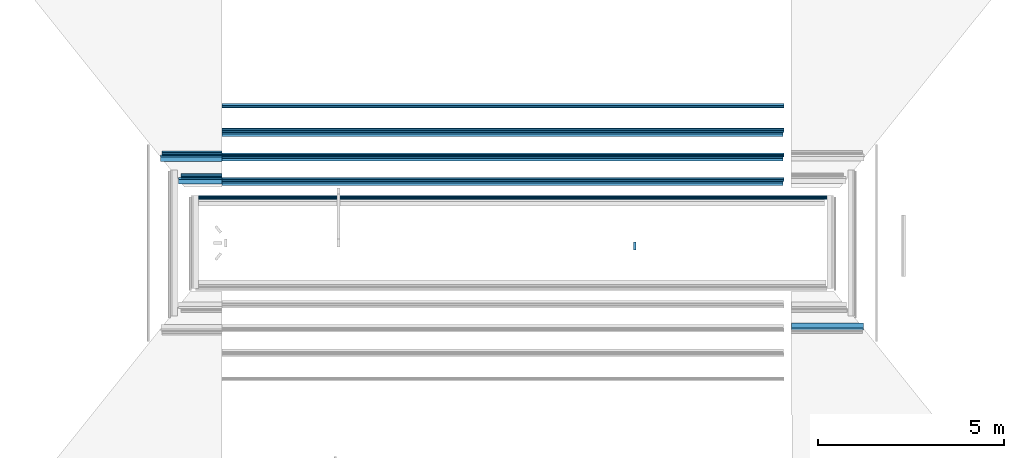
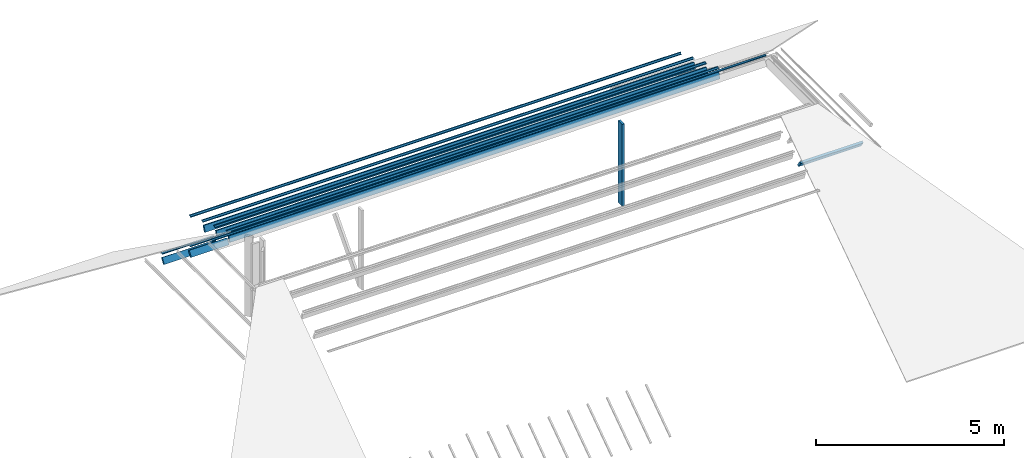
# One storey, part 3 of 6: 14 beams.
"""IFC2X3 building model written with IfcOpenShell, lengths in centimetres."""

from ifc_helpers import new_model, entity, si_unit, converted_unit, direction, frame, frame_2d, origin, place, context, subcontext, project, spatial, polyline, circle_curve, parameter, trimmed, segment, composite_curve, rectangle, outline, extrude, material, type_object, element, save


model = new_model("IFC2X3")

# Units and contexts
model_context = context("Model", 3, precision=0.001, world=frame((0.0, 0.0, 13090.0)), true_north=direction((6.123233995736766e-17, 1.0)))
body_context = subcontext(model_context, "Body", "Model", "MODEL_VIEW")
ifc_project = project(units=[si_unit("LENGTHUNIT", "METRE", prefix="CENTI"), si_unit("AREAUNIT", "SQUARE_METRE"), si_unit("VOLUMEUNIT", "CUBIC_METRE"), converted_unit("PLANEANGLEUNIT", "DEGREE", entity("IfcPlaneAngleMeasure", 0.017453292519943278), si_unit("PLANEANGLEUNIT", "RADIAN"), dimensions=[0, 0, 0, 0, 0, 0, 0])], contexts=[model_context])

# Site, building, storey
site_placement = place(None, origin())
site = spatial("IfcSite", under=ifc_project, at=site_placement, Name="Default", CompositionType="ELEMENT")
building_placement = place(site_placement, origin())
building = spatial("IfcBuilding", under=site, at=building_placement, Name="e 39 logements et 22 maisons relais", CompositionType="ELEMENT")
storey_placement = place(building_placement, frame((0.0, 0.0, 810.0)))
storey = spatial("IfcBuildingStorey", under=building, at=storey_placement, Name="R+3", CompositionType="ELEMENT", Elevation=810.0000000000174)

# Beams
ifc_material_1 = material(Name="Bois - Bois de construction de dimensions courantes")
beam_type_1 = type_object("IfcBeamType", Name="Poutre - Bois de construction de dimensions courantes:70 220", PredefinedType="BEAM")
beam_1_placement = place(storey_placement, frame((286.63480771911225, -253.80300246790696, -102.07791884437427)))
element("IfcBeam", 1, at=beam_1_placement, inside=storey, type_object=beam_type_1, material=ifc_material_1, Name="Poutre - Bois de construction de dimensions courantes:70 220", ObjectType="Poutre - Bois de construction de dimensions courantes:70 220", context=body_context, shape_type="SweptSolid", body=[
    extrude(rectangle(XDim=22.00000000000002, YDim=7.000000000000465, at=frame_2d((4.440892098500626e-14, -3.086420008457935e-14), x_axis=(1.0, 0.0))), frame((322.5262084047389, 6.309340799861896, -9.010672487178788), z_axis=(1.0, 0.0, 0.0), x_axis=(0.0, -0.5735764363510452, 0.8191520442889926)), (0.0, 0.0, 1.0), 192.94788291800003),
])
beam_2_placement = place(storey_placement, frame((186.86823692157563, -20.391086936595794, 193.24651256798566), z_axis=(1.0, 0.0, 0.0), x_axis=(0.0, 0.0, -1.0)))
element("IfcBeam", 2, at=beam_2_placement, inside=storey, type_object=beam_type_1, material=ifc_material_1, Name="Poutre - Bois de construction de dimensions courantes:70 220", ObjectType="Poutre - Bois de construction de dimensions courantes:70 220", context=body_context, shape_type="SweptSolid", body=[
    extrude(rectangle(XDim=7.000000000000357, YDim=21.999999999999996, at=frame_2d((0.0, -7.105427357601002e-15), x_axis=(1.0, 0.0))), frame((150.63012889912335, -11.0, 0.0), z_axis=(1.0, 0.0, 0.0), x_axis=(0.0, 0.0, -1.0)), (0.0, 0.0, 1.0), 266.29065862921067),
])
beam_type_2 = type_object("IfcBeamType", Name="Poutre - Bois de construction de dimensions courantes:70 200", PredefinedType="BEAM")
beam_3_placement = place(storey_placement, frame((-570.9302602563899, 210.5672279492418, -98.59157887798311), z_axis=(0.0, 0.0, 1.0), x_axis=(-1.0, 0.0, 0.0)))
element("IfcBeam", 3, at=beam_3_placement, inside=storey, type_object=beam_type_2, material=ifc_material_1, Name="Poutre - Bois de construction de dimensions courantes:70 200", ObjectType="Poutre - Bois de construction de dimensions courantes:70 200", context=body_context, shape_type="SweptSolid", body=[
    extrude(rectangle(XDim=19.999999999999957, YDim=7.000000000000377, at=frame_2d((-5.240252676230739e-14, 1.9984014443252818e-14), x_axis=(1.0, 0.0))), frame((352.0992144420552, 5.735764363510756, -8.191520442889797), z_axis=(1.0, 0.0, 0.0), x_axis=(0.0, -0.5735764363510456, 0.8191520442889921)), (0.0, 0.0, 1.0), 164.77416272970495),
])
beam_4_placement = place(storey_placement, frame((-570.9302602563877, 150.13550224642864, -55.51334522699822), z_axis=(0.0, 0.0, 1.0), x_axis=(-1.0, 0.0, 0.0)))
element("IfcBeam", 4, at=beam_4_placement, inside=storey, type_object=beam_type_2, material=ifc_material_1, Name="Poutre - Bois de construction de dimensions courantes:70 200", ObjectType="Poutre - Bois de construction de dimensions courantes:70 200", context=body_context, shape_type="SweptSolid", body=[
    extrude(rectangle(XDim=19.999999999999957, YDim=7.0000000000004, at=frame_2d((4.440892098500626e-14, -3.108624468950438e-14), x_axis=(1.0, 0.0))), frame((352.0992144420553, 5.735764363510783, -8.191520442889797), z_axis=(1.0, 0.0, 0.0), x_axis=(0.0, -0.5735764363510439, 0.8191520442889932)), (0.0, 0.0, 1.0), 116.52932828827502),
])
beam_5_placement = place(storey_placement, frame((-570.9302602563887, 144.79877924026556, -34.100000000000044), z_axis=(-0.0030304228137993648, 0.0, 0.9999954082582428), x_axis=(-0.9999954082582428, 0.0, -0.0030304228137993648)))
element("IfcBeam", 5, at=beam_5_placement, inside=storey, type_object=beam_type_2, material=ifc_material_1, Name="Poutre - Bois de construction de dimensions courantes:70 200", ObjectType="Poutre - Bois de construction de dimensions courantes:70 200", context=body_context, shape_type="SweptSolid", body=[
    extrude(rectangle(XDim=20.00000000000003, YDim=7.000000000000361, at=frame_2d((0.0, 0.0), x_axis=(0.0, 1.0))), frame((-1156.6198523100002, 6.1563625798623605, -16.914467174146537), z_axis=(1.0, 0.0, 0.0), x_axis=(0.0, -0.9396926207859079, -0.34202014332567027)), (0.0, 0.0, 1.0), 1508.7195752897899),
])
beam_6_placement = place(storey_placement, frame((-570.9302602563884, 210.729631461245, -57.960000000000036), z_axis=(-0.0026166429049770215, 0.0, 0.999996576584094), x_axis=(-0.999996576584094, 0.0, -0.0026166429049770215)))
element("IfcBeam", 6, at=beam_6_placement, inside=storey, type_object=beam_type_2, material=ifc_material_1, Name="Poutre - Bois de construction de dimensions courantes:70 200", ObjectType="Poutre - Bois de construction de dimensions courantes:70 200", context=body_context, shape_type="SweptSolid", body=[
    extrude(rectangle(XDim=19.999999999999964, YDim=7.000000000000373, at=frame_2d((1.9761969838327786e-14, -6.483702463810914e-14), x_axis=(0.0, 1.0))), frame((-1156.6199817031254, 6.190564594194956, -17.00843643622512), z_axis=(1.0, 0.0, 0.0), x_axis=(0.0, -0.9396926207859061, -0.34202014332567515)), (0.0, 0.0, 1.0), 1508.7195752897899),
])
beam_7_placement = place(storey_placement, frame((-570.9302602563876, 276.58031752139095, -81.84000000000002), z_axis=(-0.0019820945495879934, 0.0, 0.999998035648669), x_axis=(-0.999998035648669, 0.0, -0.0019820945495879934)))
element("IfcBeam", 7, at=beam_7_placement, inside=storey, type_object=beam_type_2, material=ifc_material_1, Name="Poutre - Bois de construction de dimensions courantes:70 200", ObjectType="Poutre - Bois de construction de dimensions courantes:70 200", context=body_context, shape_type="SweptSolid", body=[
    extrude(rectangle(XDim=19.999999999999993, YDim=7.00000000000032, at=frame_2d((2.531308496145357e-14, -9.769962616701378e-15), x_axis=(0.0, 1.0))), frame((-1156.6201432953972, 6.019554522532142, -16.538590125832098), z_axis=(1.0, 0.0, 0.0), x_axis=(0.0, -0.9396926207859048, -0.3420201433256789)), (0.0, 0.0, 1.0), 1508.7195752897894),
])
ifc_material_2 = material(Name="neuf")
beam_type_3 = type_object("IfcBeamType", Name="panne z:panne z", PredefinedType="BEAM")
beam_8_placement = place(storey_placement, frame((-570.9302602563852, 348.4252606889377, -96.79999999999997), z_axis=(-0.0010683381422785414, 0.0, 0.9999994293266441), x_axis=(-0.9999994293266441, 0.0, -0.0010683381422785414)))
element("IfcBeam", 8, at=beam_8_placement, inside=storey, type_object=beam_type_3, material=ifc_material_2, Name="panne z:panne z", ObjectType="panne z:panne z", context=body_context, shape_type="SweptSolid", body=[
    extrude(outline(composite_curve([segment(polyline([(0.29999999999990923, -3.0), (4.599999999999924, -3.0)]), True, "CONTINUOUS"), segment(trimmed(circle_curve(frame_2d((4.599999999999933, -2.5999999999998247), x_axis=(0.0, -1.0)), 0.40000000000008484), [parameter(0.0)], [parameter(89.99999999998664)], True, "PARAMETER"), True, "CONTINUOUS"), segment(polyline([(5.0, -2.5999999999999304), (5.0, -1.0)]), True, "CONTINUOUS"), segment(polyline([(5.0, -1.0), (4.799999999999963, -1.0)]), True, "CONTINUOUS"), segment(polyline([(4.799999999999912, -1.0), (4.799999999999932, -2.5999999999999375)]), True, "CONTINUOUS"), segment(trimmed(circle_curve(frame_2d((4.59999999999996, -2.6000000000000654), x_axis=(1.0, 0.0)), 0.19999999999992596), [parameter(269.99999999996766)], [parameter(0.0)], True, "PARAMETER"), False, "CONTINUOUS"), segment(polyline([(4.599999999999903, -2.799999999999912), (0.29999999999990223, -2.7999999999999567)]), True, "CONTINUOUS"), segment(trimmed(circle_curve(frame_2d((0.2999999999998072, -2.6000000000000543), x_axis=(0.0, -1.0)), 0.19999999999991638), [parameter(269.99999999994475)], [parameter(0.0)], True, "PARAMETER"), False, "CONTINUOUS"), segment(polyline([(0.09999999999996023, -2.599999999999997), (0.09999999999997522, 2.6000000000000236)]), True, "CONTINUOUS"), segment(trimmed(circle_curve(frame_2d((-0.3000000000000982, 2.6000000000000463), x_axis=(1.0, 0.0)), 0.4000000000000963), [parameter(0.0)], [parameter(89.99999999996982)], True, "PARAMETER"), True, "CONTINUOUS"), segment(polyline([(-0.30000000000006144, 3.0), (-4.600000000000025, 3.0)]), True, "CONTINUOUS"), segment(trimmed(circle_curve(frame_2d((-4.600000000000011, 2.6000000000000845), x_axis=(0.0, 1.0)), 0.4000000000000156), [parameter(0.0)], [parameter(89.99999999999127)], True, "PARAMETER"), True, "CONTINUOUS"), segment(polyline([(-5.0, 2.6000000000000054), (-5.0, 1.0)]), True, "CONTINUOUS"), segment(polyline([(-5.0, 1.0), (-4.79999999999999, 1.0)]), True, "CONTINUOUS"), segment(polyline([(-4.79999999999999, 1.0), (-4.799999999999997, 2.600000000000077)]), True, "CONTINUOUS"), segment(trimmed(circle_curve(frame_2d((-4.6000000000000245, 2.600000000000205), x_axis=(-1.0, 0.0)), 0.19999999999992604), [parameter(269.99999999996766)], [parameter(0.0)], True, "PARAMETER"), False, "CONTINUOUS"), segment(polyline([(-4.600000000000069, 2.8000000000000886), (-0.3000000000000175, 2.8000000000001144)]), True, "CONTINUOUS"), segment(trimmed(circle_curve(frame_2d((-0.2999999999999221, 2.6000000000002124), x_axis=(0.0, 1.0)), 0.19999999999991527), [parameter(269.9999999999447)], [parameter(0.0)], True, "PARAMETER"), False, "CONTINUOUS"), segment(polyline([(-0.10000000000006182, 2.600000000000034), (-0.10000000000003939, -2.599999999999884)]), True, "CONTINUOUS"), segment(trimmed(circle_curve(frame_2d((0.299999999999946, -2.59999999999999), x_axis=(-1.0, 0.0)), 0.40000000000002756), [parameter(0.0)], [parameter(90.00000000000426)], True, "PARAMETER"), True, "CONTINUOUS")], self_intersect=False)), frame((-1159.7812856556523, 2.4907390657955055, -6.843249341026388), z_axis=(1.0, 0.0, 0.0), x_axis=(0.0, -0.9396926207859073, -0.34202014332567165)), (0.0, 0.0, 1.0), 1511.8806265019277),
])
beam_9_placement = place(storey_placement, frame((-570.9302602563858, 282.5292842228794, -72.70000000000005), z_axis=(-0.0013544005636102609, 0.0, 0.9999990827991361), x_axis=(-0.9999990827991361, 0.0, -0.0013544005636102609)))
element("IfcBeam", 9, at=beam_9_placement, inside=storey, type_object=beam_type_3, material=ifc_material_2, Name="panne z:panne z", ObjectType="panne z:panne z", context=body_context, shape_type="SweptSolid", body=[
    extrude(outline(composite_curve([segment(polyline([(0.29999999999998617, -3.0), (4.600000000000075, -3.0)]), True, "CONTINUOUS"), segment(trimmed(circle_curve(frame_2d((4.599999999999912, -2.5999999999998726), x_axis=(0.0, -1.0)), 0.4000000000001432), [parameter(0.0)], [parameter(89.99999999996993)], True, "PARAMETER"), True, "CONTINUOUS"), segment(polyline([(5.0, -2.60000000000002), (5.0, -1.0)]), True, "CONTINUOUS"), segment(polyline([(5.0, -1.0), (4.8000000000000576, -1.0)]), True, "CONTINUOUS"), segment(polyline([(4.800000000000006, -1.0), (4.80000000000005, -2.599999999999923)]), True, "CONTINUOUS"), segment(trimmed(circle_curve(frame_2d((4.600000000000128, -2.600000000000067), x_axis=(1.0, 0.0)), 0.19999999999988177), [parameter(269.9999999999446)], [parameter(0.0)], True, "PARAMETER"), False, "CONTINUOUS"), segment(polyline([(4.599999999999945, -2.8000000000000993), (0.29999999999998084, -2.7999999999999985)]), True, "CONTINUOUS"), segment(trimmed(circle_curve(frame_2d((0.29999999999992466, -2.599999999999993), x_axis=(0.0, -1.0)), 0.19999999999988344), [parameter(269.9999999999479)], [parameter(0.0)], True, "PARAMETER"), False, "CONTINUOUS"), segment(polyline([(0.1000000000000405, -2.600000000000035), (0.10000000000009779, 2.5999999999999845)]), True, "CONTINUOUS"), segment(trimmed(circle_curve(frame_2d((-0.3000000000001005, 2.5999999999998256), x_axis=(1.0, 0.0)), 0.4000000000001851), [parameter(0.0)], [parameter(89.9999999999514)], True, "PARAMETER"), True, "CONTINUOUS"), segment(polyline([(-0.29999999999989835, 3.0), (-4.599999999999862, 3.0)]), True, "CONTINUOUS"), segment(trimmed(circle_curve(frame_2d((-4.5999999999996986, 2.60000000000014), x_axis=(0.0, 1.0)), 0.40000000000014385), [parameter(0.0)], [parameter(89.99999999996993)], True, "PARAMETER"), True, "CONTINUOUS"), segment(polyline([(-5.0, 2.6000000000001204), (-5.0, 1.0)]), True, "CONTINUOUS"), segment(polyline([(-5.0, 1.0), (-4.799999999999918, 1.0)]), True, "CONTINUOUS"), segment(polyline([(-4.799999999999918, 1.0), (-4.799999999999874, 2.6000000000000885)]), True, "CONTINUOUS"), segment(trimmed(circle_curve(frame_2d((-4.599999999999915, 2.6000000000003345), x_axis=(-1.0, 0.0)), 0.19999999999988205), [parameter(269.9999999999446)], [parameter(0.0)], True, "PARAMETER"), False, "CONTINUOUS"), segment(polyline([(-4.599999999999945, 2.8000000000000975), (-0.2999999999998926, 2.8000000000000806)]), True, "CONTINUOUS"), segment(trimmed(circle_curve(frame_2d((-0.2999999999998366, 2.6000000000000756), x_axis=(0.0, 1.0)), 0.1999999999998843), [parameter(269.9999999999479)], [parameter(0.0)], True, "PARAMETER"), False, "CONTINUOUS"), segment(polyline([(-0.0999999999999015, 2.6000000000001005), (-0.09999999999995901, -2.5999999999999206)]), True, "CONTINUOUS"), segment(trimmed(circle_curve(frame_2d((0.3000000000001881, -2.599999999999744), x_axis=(-1.0, 0.0)), 0.4000000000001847), [parameter(0.0)], [parameter(89.99999999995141)], True, "PARAMETER"), True, "CONTINUOUS")], self_intersect=False)), frame((-1159.7812856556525, 2.55914309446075, -7.031187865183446), z_axis=(1.0, 0.0, 0.0), x_axis=(0.0, -0.9396926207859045, -0.3420201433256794)), (0.0, 0.0, 1.0), 1511.8807032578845),
])
beam_10_placement = place(storey_placement, frame((-570.9302602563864, 216.72946991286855, -49.0), z_axis=(-0.0025271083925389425, 0.0, 0.9999968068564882), x_axis=(-0.9999968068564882, 0.0, -0.0025271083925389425)))
element("IfcBeam", 10, at=beam_10_placement, inside=storey, type_object=beam_type_3, material=ifc_material_2, Name="panne z:panne z", ObjectType="panne z:panne z", context=body_context, shape_type="SweptSolid", body=[
    extrude(outline(composite_curve([segment(polyline([(0.29999999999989, -3.0), (4.599999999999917, -3.0)]), True, "CONTINUOUS"), segment(trimmed(circle_curve(frame_2d((4.599999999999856, -2.6000000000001), x_axis=(0.0, -1.0)), 0.4000000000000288), [parameter(0.0)], [parameter(89.99999999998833)], True, "PARAMETER"), True, "CONTINUOUS"), segment(polyline([(5.0, -2.600000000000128), (5.0, -1.0)]), True, "CONTINUOUS"), segment(polyline([(5.0, -1.0), (4.7999999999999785, -1.0)]), True, "CONTINUOUS"), segment(polyline([(4.799999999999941, -1.0), (4.7999999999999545, -2.6000000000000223)]), True, "CONTINUOUS"), segment(trimmed(circle_curve(frame_2d((4.599999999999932, -2.600000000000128), x_axis=(1.0, 0.0)), 0.19999999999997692), [parameter(270.0000000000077)], [parameter(0.0)], True, "PARAMETER"), False, "CONTINUOUS"), segment(polyline([(4.599999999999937, -2.8000000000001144), (0.29999999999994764, -2.7999999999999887)]), True, "CONTINUOUS"), segment(trimmed(circle_curve(frame_2d((0.2999999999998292, -2.600000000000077), x_axis=(0.0, -1.0)), 0.1999999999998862), [parameter(269.99999999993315)], [parameter(0.0)], True, "PARAMETER"), False, "CONTINUOUS"), segment(polyline([(0.0999999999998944, -2.6000000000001), (0.09999999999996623, 2.5999999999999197)]), True, "CONTINUOUS"), segment(trimmed(circle_curve(frame_2d((-0.2999999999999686, 2.600000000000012), x_axis=(1.0, 0.0)), 0.3999999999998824), [parameter(0.0)], [parameter(90.00000000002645)], True, "PARAMETER"), True, "CONTINUOUS"), segment(polyline([(-0.3000000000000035, 3.0), (-4.600000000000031, 3.0)]), True, "CONTINUOUS"), segment(trimmed(circle_curve(frame_2d((-4.600000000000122, 2.6000000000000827), x_axis=(0.0, 1.0)), 0.3999999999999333), [parameter(0.0)], [parameter(90.00000000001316)], True, "PARAMETER"), True, "CONTINUOUS"), segment(polyline([(-5.0, 2.5999999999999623), (-5.0, 1.0)]), True, "CONTINUOUS"), segment(polyline([(-5.0, 1.0), (-4.800000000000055, 1.0)]), True, "CONTINUOUS"), segment(polyline([(-4.800000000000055, 1.0), (-4.800000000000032, 2.60000000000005)]), True, "CONTINUOUS"), segment(trimmed(circle_curve(frame_2d((-4.600000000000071, 2.6000000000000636), x_axis=(-1.0, 0.0)), 0.19999999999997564), [parameter(270.0000000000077)], [parameter(0.0)], True, "PARAMETER"), False, "CONTINUOUS"), segment(polyline([(-4.6000000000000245, 2.80000000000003), (-0.2999999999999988, 2.800000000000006)]), True, "CONTINUOUS"), segment(trimmed(circle_curve(frame_2d((-0.2999999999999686, 2.600000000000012), x_axis=(0.0, 1.0)), 0.19999999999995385), [parameter(269.9999999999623)], [parameter(0.0)], True, "PARAMETER"), False, "CONTINUOUS"), segment(polyline([(-0.1000000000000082, 2.600000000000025), (-0.10000000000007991, -2.5999999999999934)]), True, "CONTINUOUS"), segment(trimmed(circle_curve(frame_2d((0.2999999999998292, -2.600000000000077), x_axis=(-1.0, 0.0)), 0.3999999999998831), [parameter(0.0)], [parameter(90.00000000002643)], True, "PARAMETER"), True, "CONTINUOUS")], self_intersect=False)), frame((-1159.781285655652, 2.764355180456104, -7.595003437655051), z_axis=(1.0, 0.0, 0.0), x_axis=(0.0, -0.9396926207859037, -0.342020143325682)), (0.0, 0.0, 1.0), 1511.881207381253),
])
beam_11_placement = place(storey_placement, frame((-570.9302602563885, 150.4561422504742, -24.700000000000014), z_axis=(-0.0027087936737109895, 0.0, 0.9999963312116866), x_axis=(-0.9999963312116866, 0.0, -0.0027087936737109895)))
element("IfcBeam", 11, at=beam_11_placement, inside=storey, type_object=beam_type_3, material=ifc_material_2, Name="panne z:panne z", ObjectType="panne z:panne z", context=body_context, shape_type="SweptSolid", body=[
    extrude(outline(composite_curve([segment(polyline([(0.2999999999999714, -3.0), (4.599999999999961, -3.0)]), True, "CONTINUOUS"), segment(trimmed(circle_curve(frame_2d((4.600000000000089, -2.5999999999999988), x_axis=(0.0, -1.0)), 0.3999999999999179), [parameter(0.0)], [parameter(90.00000000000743)], True, "PARAMETER"), True, "CONTINUOUS"), segment(polyline([(5.0, -2.600000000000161), (5.0, -1.0)]), True, "CONTINUOUS"), segment(polyline([(5.0, -1.0), (4.79999999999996, -1.0)]), True, "CONTINUOUS"), segment(polyline([(4.799999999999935, -1.0), (4.799999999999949, -2.6000000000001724)]), True, "CONTINUOUS"), segment(trimmed(circle_curve(frame_2d((4.600000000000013, -2.599999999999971), x_axis=(1.0, 0.0)), 0.20000000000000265), [parameter(269.99999999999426)], [parameter(0.0)], True, "PARAMETER"), False, "CONTINUOUS"), segment(polyline([(4.600000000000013, -2.8000000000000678), (0.29999999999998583, -2.8000000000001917)]), True, "CONTINUOUS"), segment(trimmed(circle_curve(frame_2d((0.3000000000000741, -2.600000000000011), x_axis=(0.0, -1.0)), 0.20000000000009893), [parameter(270.00000000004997)], [parameter(0.0)], True, "PARAMETER"), False, "CONTINUOUS"), segment(polyline([(0.09999999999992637, -2.60000000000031), (0.099999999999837, 2.5999999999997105)]), True, "CONTINUOUS"), segment(trimmed(circle_curve(frame_2d((-0.29999999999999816, 2.5999999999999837), x_axis=(1.0, 0.0)), 0.39999999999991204), [parameter(0.0)], [parameter(90.00000000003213)], True, "PARAMETER"), True, "CONTINUOUS"), segment(polyline([(-0.3000000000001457, 3.0), (-4.600000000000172, 3.0)]), True, "CONTINUOUS"), segment(trimmed(circle_curve(frame_2d((-4.600000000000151, 2.599999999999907), x_axis=(0.0, 1.0)), 0.39999999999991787), [parameter(0.0)], [parameter(90.00000000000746)], True, "PARAMETER"), True, "CONTINUOUS"), segment(polyline([(-5.0, 2.599999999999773), (-5.0, 1.0)]), True, "CONTINUOUS"), segment(polyline([(-5.0, 1.0), (-4.800000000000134, 1.0)]), True, "CONTINUOUS"), segment(polyline([(-4.800000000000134, 1.0), (-4.800000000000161, 2.599999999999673)]), True, "CONTINUOUS"), segment(trimmed(circle_curve(frame_2d((-4.600000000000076, 2.5999999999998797), x_axis=(-1.0, 0.0)), 0.20000000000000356), [parameter(269.9999999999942)], [parameter(0.0)], True, "PARAMETER"), False, "CONTINUOUS"), segment(polyline([(-4.600000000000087, 2.799999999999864), (-0.30000000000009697, 2.799999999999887)]), True, "CONTINUOUS"), segment(trimmed(circle_curve(frame_2d((-0.30000000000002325, 2.5999999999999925), x_axis=(0.0, 1.0)), 0.19999999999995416), [parameter(269.9999999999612)], [parameter(0.0)], True, "PARAMETER"), False, "CONTINUOUS"), segment(polyline([(-0.10000000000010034, 2.599999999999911), (-0.10000000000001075, -2.6000000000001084)]), True, "CONTINUOUS"), segment(trimmed(circle_curve(frame_2d((0.29999999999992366, -2.6000000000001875), x_axis=(-1.0, 0.0)), 0.39999999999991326), [parameter(0.0)], [parameter(90.00000000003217)], True, "PARAMETER"), True, "CONTINUOUS")], self_intersect=False)), frame((-1159.7812856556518, 2.9011632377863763, -7.970880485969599), z_axis=(1.0, 0.0, 0.0), x_axis=(0.0, -0.9396926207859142, -0.34202014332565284)), (0.0, 0.0, 1.0), 1511.8813127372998),
])
beam_12_placement = place(storey_placement, frame((-570.9302602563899, 220.09007512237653, -89.80500943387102), z_axis=(0.0, 0.0, 1.0), x_axis=(-1.0, 0.0, 0.0)))
element("IfcBeam", 12, at=beam_12_placement, inside=storey, type_object=beam_type_3, material=ifc_material_2, Name="panne z:panne z", ObjectType="panne z:panne z", context=body_context, shape_type="SweptSolid", body=[
    extrude(outline(composite_curve([segment(trimmed(circle_curve(frame_2d((-0.30000000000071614, 2.600000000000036), x_axis=(1.0, 0.0)), 0.399999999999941), [parameter(0.0)], [parameter(90.00000000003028)], True, "PARAMETER"), True, "CONTINUOUS"), segment(polyline([(-0.30000000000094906, 3.0), (-4.600000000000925, 3.0)]), True, "CONTINUOUS"), segment(trimmed(circle_curve(frame_2d((-4.600000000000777, 2.5999999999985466), x_axis=(0.0, 1.0)), 0.3999999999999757), [parameter(0.0)], [parameter(89.99999999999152)], True, "PARAMETER"), True, "CONTINUOUS"), segment(polyline([(-5.0, 2.599999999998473), (-5.0, 1.0)]), True, "CONTINUOUS"), segment(polyline([(-5.0, 1.0), (-4.800000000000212, 1.0)]), True, "CONTINUOUS"), segment(polyline([(-4.800000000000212, 1.0), (-4.800000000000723, 2.5999999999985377)]), True, "CONTINUOUS"), segment(trimmed(circle_curve(frame_2d((-4.600000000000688, 2.5999999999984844), x_axis=(-1.0, 0.0)), 0.2000000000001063), [parameter(270.00000000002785)], [parameter(0.0)], True, "PARAMETER"), False, "CONTINUOUS"), segment(polyline([(-4.600000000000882, 2.799999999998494), (-0.30000000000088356, 2.799999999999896)]), True, "CONTINUOUS"), segment(trimmed(circle_curve(frame_2d((-0.3000000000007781, 2.5999999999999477), x_axis=(0.0, 1.0)), 0.20000000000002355), [parameter(270.0000000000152)], [parameter(0.0)], True, "PARAMETER"), False, "CONTINUOUS"), segment(polyline([(-0.10000000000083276, 2.5999999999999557), (-0.09999999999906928, -2.5999999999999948)]), True, "CONTINUOUS"), segment(trimmed(circle_curve(frame_2d((0.3000000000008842, -2.5999999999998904), x_axis=(-1.0, 0.0)), 0.399999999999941), [parameter(0.0)], [parameter(90.00000000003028)], True, "PARAMETER"), True, "CONTINUOUS"), segment(polyline([(0.30000000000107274, -3.0), (4.600000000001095, -3.0)]), True, "CONTINUOUS"), segment(trimmed(circle_curve(frame_2d((4.600000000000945, -2.599999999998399), x_axis=(0.0, -1.0)), 0.3999999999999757), [parameter(0.0)], [parameter(89.99999999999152)], True, "PARAMETER"), True, "CONTINUOUS"), segment(polyline([(5.0, -2.5999999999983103), (5.0, -1.0)]), True, "CONTINUOUS"), segment(polyline([(5.0, -1.0), (4.800000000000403, -1.0)]), True, "CONTINUOUS"), segment(polyline([(4.800000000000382, -1.0), (4.800000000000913, -2.599999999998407)]), True, "CONTINUOUS"), segment(trimmed(circle_curve(frame_2d((4.600000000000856, -2.599999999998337), x_axis=(1.0, 0.0)), 0.2000000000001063), [parameter(270.00000000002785)], [parameter(0.0)], True, "PARAMETER"), False, "CONTINUOUS"), segment(polyline([(4.6000000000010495, -2.799999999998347), (0.30000000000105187, -2.7999999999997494)]), True, "CONTINUOUS"), segment(trimmed(circle_curve(frame_2d((0.3000000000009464, -2.5999999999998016), x_axis=(0.0, -1.0)), 0.20000000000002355), [parameter(270.0000000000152)], [parameter(0.0)], True, "PARAMETER"), False, "CONTINUOUS"), segment(polyline([(0.10000000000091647, -2.5999999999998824), (0.09999999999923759, 2.600000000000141)]), True, "CONTINUOUS")], self_intersect=False)), frame((352.09921444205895, 1.5385808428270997, -2.197321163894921), z_axis=(1.0, 0.0, 0.0), x_axis=(0.0, 0.8191520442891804, 0.5735764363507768)), (0.0, 0.0, 1.0), 160.3838381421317),
])
beam_13_placement = place(storey_placement, frame((-570.9302602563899, 159.24887670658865, -46.434886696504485), z_axis=(0.0, 0.0, 1.0), x_axis=(-1.0, 0.0, 0.0)))
element("IfcBeam", 13, at=beam_13_placement, inside=storey, type_object=beam_type_3, material=ifc_material_2, Name="panne z:panne z", ObjectType="panne z:panne z", context=body_context, shape_type="SweptSolid", body=[
    extrude(outline(composite_curve([segment(trimmed(circle_curve(frame_2d((-0.30000000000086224, 2.599999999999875), x_axis=(1.0, 0.0)), 0.399999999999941), [parameter(0.0)], [parameter(90.00000000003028)], True, "PARAMETER"), True, "CONTINUOUS"), segment(polyline([(-0.3000000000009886, 3.0), (-4.600000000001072, 3.0)]), True, "CONTINUOUS"), segment(trimmed(circle_curve(frame_2d((-4.600000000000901, 2.599999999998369), x_axis=(0.0, 1.0)), 0.3999999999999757), [parameter(0.0)], [parameter(89.99999999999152)], True, "PARAMETER"), True, "CONTINUOUS"), segment(polyline([(-5.0, 2.599999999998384), (-5.0, 1.0)]), True, "CONTINUOUS"), segment(polyline([(-5.0, 1.0), (-4.800000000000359, 1.0)]), True, "CONTINUOUS"), segment(polyline([(-4.800000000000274, 1.0), (-4.800000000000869, 2.599999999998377)]), True, "CONTINUOUS"), segment(trimmed(circle_curve(frame_2d((-4.600000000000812, 2.5999999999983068), x_axis=(-1.0, 0.0)), 0.2000000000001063), [parameter(270.00000000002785)], [parameter(0.0)], True, "PARAMETER"), False, "CONTINUOUS"), segment(polyline([(-4.600000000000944, 2.7999999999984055), (-0.3000000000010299, 2.7999999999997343)]), True, "CONTINUOUS"), segment(trimmed(circle_curve(frame_2d((-0.3000000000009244, 2.5999999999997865), x_axis=(0.0, 1.0)), 0.20000000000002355), [parameter(270.0000000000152)], [parameter(0.0)], True, "PARAMETER"), False, "CONTINUOUS"), segment(polyline([(-0.10000000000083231, 2.5999999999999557), (-0.09999999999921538, -2.6000000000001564)]), True, "CONTINUOUS"), segment(trimmed(circle_curve(frame_2d((0.3000000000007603, -2.600000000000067), x_axis=(-1.0, 0.0)), 0.399999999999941), [parameter(0.0)], [parameter(90.00000000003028)], True, "PARAMETER"), True, "CONTINUOUS"), segment(polyline([(0.3000000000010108, -3.0), (4.600000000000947, -3.0)]), True, "CONTINUOUS"), segment(trimmed(circle_curve(frame_2d((4.60000000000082, -2.5999999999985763), x_axis=(0.0, -1.0)), 0.3999999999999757), [parameter(0.0)], [parameter(89.99999999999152)], True, "PARAMETER"), True, "CONTINUOUS"), segment(polyline([(5.0, -2.599999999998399), (5.0, -1.0)]), True, "CONTINUOUS"), segment(polyline([(5.0, -1.0), (4.800000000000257, -1.0)]), True, "CONTINUOUS"), segment(polyline([(4.800000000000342, -1.0), (4.800000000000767, -2.599999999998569)]), True, "CONTINUOUS"), segment(trimmed(circle_curve(frame_2d((4.6000000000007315, -2.599999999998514), x_axis=(1.0, 0.0)), 0.2000000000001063), [parameter(270.00000000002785)], [parameter(0.0)], True, "PARAMETER"), False, "CONTINUOUS"), segment(polyline([(4.600000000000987, -2.7999999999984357), (0.30000000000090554, -2.799999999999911)]), True, "CONTINUOUS"), segment(trimmed(circle_curve(frame_2d((0.3000000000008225, -2.5999999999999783), x_axis=(0.0, -1.0)), 0.20000000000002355), [parameter(270.0000000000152)], [parameter(0.0)], True, "PARAMETER"), False, "CONTINUOUS"), segment(polyline([(0.10000000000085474, -2.5999999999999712), (0.09999999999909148, 2.599999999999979)]), True, "CONTINUOUS")], self_intersect=False)), frame((352.09921444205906, 1.5385808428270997, -2.1973211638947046), z_axis=(1.0, 0.0, 0.0), x_axis=(0.0, 0.8191520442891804, 0.5735764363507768)), (0.0, 0.0, 1.0), 109.25772047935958),
])
beam_14_placement = place(storey_placement, frame((-570.9302602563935, 101.58900792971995, -3.0), z_axis=(-0.0034677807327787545, 0.0, 0.999993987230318), x_axis=(-0.999993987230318, 0.0, -0.0034677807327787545)))
element("IfcBeam", 14, at=beam_14_placement, inside=storey, type_object=beam_type_3, material=ifc_material_2, Name="panne z:panne z", ObjectType="panne z:panne z", context=body_context, shape_type="SweptSolid", body=[
    extrude(outline(composite_curve([segment(trimmed(circle_curve(frame_2d((-0.2999999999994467, 2.59999999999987), x_axis=(1.0, 0.0)), 0.40000000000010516), [parameter(0.0)], [parameter(89.99999999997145)], True, "PARAMETER"), True, "CONTINUOUS"), segment(polyline([(-0.2999999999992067, 3.0), (-4.599999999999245, 3.0)]), True, "CONTINUOUS"), segment(trimmed(circle_curve(frame_2d((-4.599999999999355, 2.600000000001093), x_axis=(0.0, 1.0)), 0.4000000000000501), [parameter(0.0)], [parameter(89.99999999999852)], True, "PARAMETER"), True, "CONTINUOUS"), segment(polyline([(-5.0, 2.6000000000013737), (-5.0, 1.0)]), True, "CONTINUOUS"), segment(polyline([(-5.0, 1.0), (-4.79999999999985, 1.0)]), True, "CONTINUOUS"), segment(polyline([(-4.799999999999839, 1.0), (-4.799999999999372, 2.600000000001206)]), True, "CONTINUOUS"), segment(trimmed(circle_curve(frame_2d((-4.599999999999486, 2.6000000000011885), x_axis=(-1.0, 0.0)), 0.19999999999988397), [parameter(269.9999999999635)], [parameter(0.0)], True, "PARAMETER"), False, "CONTINUOUS"), segment(polyline([(-4.5999999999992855, 2.8000000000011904), (-0.29999999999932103, 2.799999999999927)]), True, "CONTINUOUS"), segment(trimmed(circle_curve(frame_2d((-0.2999999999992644, 2.6000000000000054), x_axis=(0.0, 1.0)), 0.19999999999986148), [parameter(269.9999999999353)], [parameter(0.0)], True, "PARAMETER"), False, "CONTINUOUS"), segment(polyline([(-0.09999999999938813, 2.599999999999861), (-0.10000000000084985, -2.600000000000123)]), True, "CONTINUOUS"), segment(trimmed(circle_curve(frame_2d((0.2999999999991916, -2.600000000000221), x_axis=(-1.0, 0.0)), 0.4000000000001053), [parameter(0.0)], [parameter(89.99999999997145)], True, "PARAMETER"), True, "CONTINUOUS"), segment(polyline([(0.2999999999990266, -3.0), (4.599999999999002, -3.0)]), True, "CONTINUOUS"), segment(trimmed(circle_curve(frame_2d((4.5999999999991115, -2.600000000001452), x_axis=(0.0, -1.0)), 0.40000000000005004), [parameter(0.0)], [parameter(89.99999999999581)], True, "PARAMETER"), True, "CONTINUOUS"), segment(polyline([(5.0, -2.6000000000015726), (5.0, -1.0)]), True, "CONTINUOUS"), segment(polyline([(5.0, -1.0), (4.799999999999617, -1.0)]), True, "CONTINUOUS"), segment(polyline([(4.799999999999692, -1.0), (4.799999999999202, -2.6000000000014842)]), True, "CONTINUOUS"), segment(trimmed(circle_curve(frame_2d((4.5999999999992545, -2.600000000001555), x_axis=(1.0, 0.0)), 0.19999999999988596), [parameter(269.99999999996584)], [parameter(0.0)], True, "PARAMETER"), False, "CONTINUOUS"), segment(polyline([(4.599999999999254, -2.800000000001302), (0.29999999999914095, -2.8000000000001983)]), True, "CONTINUOUS"), segment(trimmed(circle_curve(frame_2d((0.29999999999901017, -2.600000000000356), x_axis=(0.0, -1.0)), 0.19999999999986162), [parameter(269.9999999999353)], [parameter(0.0)], True, "PARAMETER"), False, "CONTINUOUS"), segment(polyline([(0.09999999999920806, -2.6000000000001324), (0.10000000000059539, 2.5999999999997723)]), True, "CONTINUOUS")], self_intersect=False)), frame((-1278.491968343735, 1.8705876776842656, -2.5746430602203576), z_axis=(1.0, 0.0, 0.0), x_axis=(0.0, 0.8090169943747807, 0.5877852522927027)), (0.0, 0.0, 1.0), 1705.8736509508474),
])

save(model, "model.ifc")
